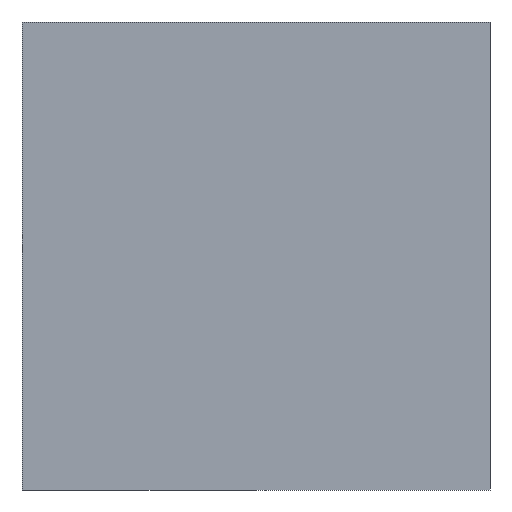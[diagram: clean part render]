
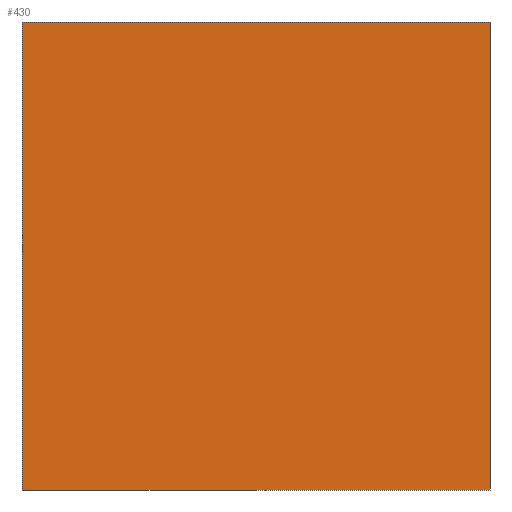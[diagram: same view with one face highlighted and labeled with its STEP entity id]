
A CAD part, left-side view. The second image highlights one B-rep face of the part: STEP entity #430.
In plain terms, the highlighted planar face has unit normal (-1, 0, 0).
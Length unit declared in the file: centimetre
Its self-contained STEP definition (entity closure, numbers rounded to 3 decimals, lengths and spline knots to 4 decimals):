
#5 = VECTOR ( 'NONE', #315, 100. ) ;
#21 = CARTESIAN_POINT ( 'NONE',  ( 0., 1000., 1000. ) ) ;
#22 = FACE_OUTER_BOUND ( 'NONE', #119, .T. ) ;
#25 = AXIS2_PLACEMENT_3D ( 'NONE', #350, #437, #163 ) ;
#43 = ORIENTED_EDGE ( 'NONE', *, *, #181, .T. ) ;
#50 = CARTESIAN_POINT ( 'NONE',  ( 0., 1000., 0. ) ) ;
#51 = CARTESIAN_POINT ( 'NONE',  ( 0., 1000., 1000. ) ) ;
#54 = CARTESIAN_POINT ( 'NONE',  ( 0., 0., 1000. ) ) ;
#63 = ORIENTED_EDGE ( 'NONE', *, *, #295, .F. ) ;
#70 = VECTOR ( 'NONE', #231, 100. ) ;
#119 = EDGE_LOOP ( 'NONE', ( #421, #266, #63, #43 ) ) ;
#120 = DIRECTION ( 'NONE',  ( 0., -1., 0. ) ) ;
#126 = VERTEX_POINT ( 'NONE', #239 ) ;
#162 = CARTESIAN_POINT ( 'NONE',  ( 0., 1000., 0. ) ) ;
#163 = DIRECTION ( 'NONE',  ( 0., 0., -1. ) ) ;
#173 = VERTEX_POINT ( 'NONE', #354 ) ;
#181 = EDGE_CURVE ( 'NONE', #126, #360, #439, .T. ) ;
#190 = CARTESIAN_POINT ( 'NONE',  ( 0., 0., 1000. ) ) ;
#196 = VECTOR ( 'NONE', #378, 100. ) ;
#227 = LINE ( 'NONE', #162, #429 ) ;
#231 = DIRECTION ( 'NONE',  ( 0., -1., 0. ) ) ;
#239 = CARTESIAN_POINT ( 'NONE',  ( 0., 1000., 1000. ) ) ;
#266 = ORIENTED_EDGE ( 'NONE', *, *, #396, .F. ) ;
#295 = EDGE_CURVE ( 'NONE', #126, #331, #344, .T. ) ;
#297 = EDGE_CURVE ( 'NONE', #360, #173, #227, .T. ) ;
#315 = DIRECTION ( 'NONE',  ( 0., 0., -1. ) ) ;
#317 = LINE ( 'NONE', #54, #196 ) ;
#331 = VERTEX_POINT ( 'NONE', #190 ) ;
#344 = LINE ( 'NONE', #21, #70 ) ;
#350 = CARTESIAN_POINT ( 'NONE',  ( 0., 1000., 1000. ) ) ;
#354 = CARTESIAN_POINT ( 'NONE',  ( 0., 0., 0. ) ) ;
#360 = VERTEX_POINT ( 'NONE', #50 ) ;
#378 = DIRECTION ( 'NONE',  ( 0., 0., -1. ) ) ;
#396 = EDGE_CURVE ( 'NONE', #331, #173, #317, .T. ) ;
#421 = ORIENTED_EDGE ( 'NONE', *, *, #297, .T. ) ;
#429 = VECTOR ( 'NONE', #120, 100. ) ;
#430 = ADVANCED_FACE ( 'NONE', ( #22 ), #453, .F. ) ;
#437 = DIRECTION ( 'NONE',  ( 1., 0., 0. ) ) ;
#439 = LINE ( 'NONE', #51, #5 ) ;
#453 = PLANE ( 'NONE',  #25 ) ;
